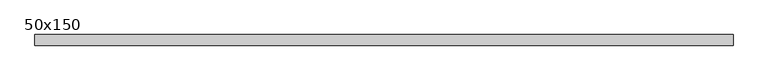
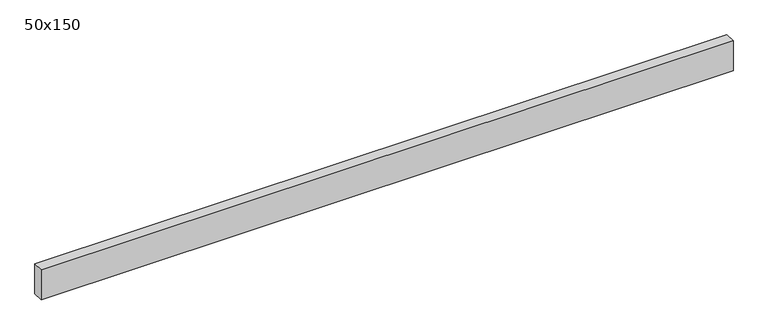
"""IFC4 building model written with IfcOpenShell, lengths in millimetres: beam geometry, Graded Timber : 50x150."""

import ifcopenshell
import ifcopenshell.guid

model = None  # the IFC model being written
_history = None  # IfcOwnerHistory: only IFC2X3 demands one
_inside = {}  # id of a spatial element -> (the spatial element, [elements in it])
_under = {}  # id of a project, library or spatial element -> (it, [spatial elements below it])
_declared = {}  # id of a project -> (the project, [libraries it declares])
_typed = {}  # id of a type object -> (the type object, [elements of that type])
_made_of = {}  # id of a material, layer set ... -> (it, [elements and type objects made of it])


def new_model(schema):
    """Start an empty IFC model of exactly this schema.

    Asked for "IFC4X3", IfcOpenShell would pick the latest addendum, in which some entities
    have other attributes; the version numbers below select the first issue.
    IFC2X3 requires an IfcOwnerHistory on every rooted entity: one is made here for all.
    """
    global model, _history
    if schema == "IFC4X3":
        model = ifcopenshell.file(schema_version=(4, 3, 0, 0))
    else:
        model = ifcopenshell.file(schema=schema)
    _inside.clear()
    _under.clear()
    _declared.clear()
    _typed.clear()
    _made_of.clear()
    _history = None
    if model.schema == "IFC2X3":
        org = make("IfcOrganization", Name="unknown")
        user = make(
            "IfcPersonAndOrganization",
            ThePerson=make("IfcPerson", FamilyName="unknown"),
            TheOrganization=org,
        )
        app = make(
            "IfcApplication",
            ApplicationDeveloper=org,
            Version="unknown",
            ApplicationFullName="unknown",
            ApplicationIdentifier="unknown",
        )
        _history = make(
            "IfcOwnerHistory",
            OwningUser=user,
            OwningApplication=app,
            ChangeAction="ADDED",
            CreationDate=0,
        )
    return model


def make(cls, **values):
    """One entity of the class cls with the attributes given. An attribute that is None is left unset."""
    return model.create_entity(
        cls, **{name: value for name, value in values.items() if value is not None}
    )


def rooted(cls, **values):
    """An entity with a GlobalId (a new one), such as an element, a storey or a relation."""
    return make(cls, GlobalId=ifcopenshell.guid.new(), OwnerHistory=_history, **values)


def si_unit(unit_type, name, prefix=None):
    """IfcSIUnit, for example si_unit("LENGTHUNIT", "METRE", prefix="MILLI")."""
    return make("IfcSIUnit", UnitType=unit_type, Prefix=prefix, Name=name)


def assignment(units):
    """IfcUnitAssignment: the units of a project."""
    return None if units is None else make("IfcUnitAssignment", Units=units)


def point(xyz):
    """IfcCartesianPoint."""
    return None if xyz is None else make("IfcCartesianPoint", Coordinates=xyz)


def direction(xyz):
    """IfcDirection."""
    return None if xyz is None else make("IfcDirection", DirectionRatios=xyz)


def frame(location, z_axis=None, x_axis=None):
    """IfcAxis2Placement3D, a coordinate frame: its origin and axes. An axis left out is left unset."""
    return make(
        "IfcAxis2Placement3D",
        Location=point(location),
        Axis=direction(z_axis),
        RefDirection=direction(x_axis),
    )


def origin():
    """The frame at (0, 0, 0) with its axes left unset."""
    return frame((0.0, 0.0, 0.0))


def place(relative_to, where):
    """IfcLocalPlacement: puts the frame where relative to a parent placement (None: the world)."""
    return make(
        "IfcLocalPlacement", PlacementRelTo=relative_to, RelativePlacement=where
    )


def context(
    kind, dimensions, precision=None, world=None, true_north=None, identifier=None
):
    """IfcGeometricRepresentationContext, for example the 3D "Model" context."""
    return make(
        "IfcGeometricRepresentationContext",
        ContextIdentifier=identifier,
        ContextType=kind,
        CoordinateSpaceDimension=dimensions,
        Precision=precision,
        WorldCoordinateSystem=world,
        TrueNorth=true_north,
    )


def project(units=None, contexts=None):
    """IfcProject with its units and contexts."""
    return rooted(
        "IfcProject",
        Name="project",
        RepresentationContexts=contexts,
        UnitsInContext=assignment(units),
    )


def spatial(cls, under=None, at=None, **own):
    """A site, building, storey or space (cls), placed at a placement, below another one or the project."""
    s = rooted(cls, ObjectPlacement=at, **own)
    if under is not None:
        _under.setdefault(under.id(), (under, []))[1].append(s)
    return s


def polyline(points):
    """IfcPolyline through the points."""
    return make("IfcPolyline", Points=[point(p) for p in points])


def outline(outer, holes=None, kind="AREA"):
    """IfcArbitraryClosedProfileDef: a profile drawn as a closed curve; with holes, ...WithVoids."""
    if holes is None:
        return make("IfcArbitraryClosedProfileDef", ProfileType=kind, OuterCurve=outer)
    return make(
        "IfcArbitraryProfileDefWithVoids",
        ProfileType=kind,
        OuterCurve=outer,
        InnerCurves=holes,
    )


def extrude(swept, where, along, depth):
    """IfcExtrudedAreaSolid: the profile swept, set in the frame where, extruded along a direction by depth."""
    return make(
        "IfcExtrudedAreaSolid",
        SweptArea=swept,
        Position=where,
        ExtrudedDirection=direction(along),
        Depth=depth,
    )


def shape(context_of_items, identifier, shape_type, items):
    """IfcShapeRepresentation: the items that make up one representation, for example the "Body"."""
    return make(
        "IfcShapeRepresentation",
        ContextOfItems=context_of_items,
        RepresentationIdentifier=identifier,
        RepresentationType=shape_type,
        Items=items,
    )


def source(mapping_origin, context_of_items, identifier, shape_type, items):
    """IfcRepresentationMap: a shape defined once, which mapped items show again and again."""
    return make(
        "IfcRepresentationMap",
        MappingOrigin=mapping_origin,
        MappedRepresentation=shape(context_of_items, identifier, shape_type, items),
    )


def transform(
    local_origin,
    x_axis=None,
    y_axis=None,
    z_axis=None,
    scale=None,
    scale2=None,
    scale3=None,
    uniform=True,
):
    """IfcCartesianTransformationOperator3D, or its non-uniform kind. x_axis, y_axis, z_axis: its Axis1, 2, 3."""
    if uniform:
        return make(
            "IfcCartesianTransformationOperator3D",
            Axis1=direction(x_axis),
            Axis2=direction(y_axis),
            LocalOrigin=point(local_origin),
            Scale=scale,
            Axis3=direction(z_axis),
        )
    return make(
        "IfcCartesianTransformationOperator3DnonUniform",
        Axis1=direction(x_axis),
        Axis2=direction(y_axis),
        LocalOrigin=point(local_origin),
        Scale=scale,
        Axis3=direction(z_axis),
        Scale2=scale2,
        Scale3=scale3,
    )


def mapped(mapping_source, mapping_target):
    """IfcMappedItem: shows the shape of a source again, moved by a transform."""
    return make(
        "IfcMappedItem", MappingSource=mapping_source, MappingTarget=mapping_target
    )


def made_of(thing, what):
    """Note that an element or type object is made of a material, layer set ...; save() writes the relation."""
    if what is not None:
        _made_of.setdefault(what.id(), (what, []))[1].append(thing)
    return thing


def element(
    cls,
    number,
    at=None,
    inside=None,
    cuts=None,
    type_object=None,
    material=None,
    context=None,
    identifier="Body",
    shape_type=None,
    held_by="IfcProductDefinitionShape",
    body=None,
    shapes=None,
    **own,
):
    """One element of the class cls, such as IfcWall. Its Tag is "e" and its number.

    at: its placement. inside: the storey or other place that contains it. cuts: it is an
    opening in that element (IfcRelVoidsElement). A single representation is given by context,
    identifier, shape_type and body (its items); several are given by shapes. held_by: the class
    of the entity that holds the representations. save() writes the other relations.
    """
    e = rooted(cls, Tag="e%d" % number, ObjectPlacement=at, **own)
    if body is not None:
        shapes = [shape(context, identifier, shape_type, body)]
    if shapes is not None:
        e.Representation = make(held_by, Representations=shapes)
    if inside is not None:
        _inside.setdefault(inside.id(), (inside, []))[1].append(e)
    if cuts is not None:
        rooted(
            "IfcRelVoidsElement", RelatingBuildingElement=cuts, RelatedOpeningElement=e
        )
    if type_object is not None:
        _typed.setdefault(type_object.id(), (type_object, []))[1].append(e)
    return made_of(e, material)


def aggregate(whole, parts):
    """IfcRelAggregates: a whole, such as a stair, and the parts it consists of."""
    return rooted("IfcRelAggregates", RelatingObject=whole, RelatedObjects=parts)


def save(model, path):
    """Write the relations noted so far, then the file.

    IfcRelAggregates (storeys below a building ...), IfcRelContainedInSpatialStructure (elements
    in a storey), IfcRelDefinesByType, IfcRelAssociatesMaterial and IfcRelDeclares: one each for
    every whole, place, type object, material and project.
    """
    for whole, parts in _under.values():
        aggregate(whole, parts)
    for where, things in _inside.values():
        rooted(
            "IfcRelContainedInSpatialStructure",
            RelatedElements=things,
            RelatingStructure=where,
        )
    for kind, things in _typed.values():
        rooted("IfcRelDefinesByType", RelatedObjects=things, RelatingType=kind)
    for what, things in _made_of.values():
        rooted("IfcRelAssociatesMaterial", RelatedObjects=things, RelatingMaterial=what)
    for by, libraries in _declared.values():
        rooted("IfcRelDeclares", RelatingContext=by, RelatedDefinitions=libraries)
    model.write(path)


def beam_50x150_329b2feb(model_context):
    return source(origin(), model_context, "Body", "SweptSolid", [
        extrude(outline(polyline([(1635.5, 25.0), (1635.5, -25.0), (-1635.5, -25.0), (-1635.5, 25.0), (1635.5, 25.0)])), frame((0.0, 0.0, -75.0), z_axis=(0.0, 0.0, 1.0), x_axis=(1.0, 0.0, 0.0)), (0.0, 0.0, 1.0), 150.0),
    ])


if __name__ == "__main__":
    model = new_model("IFC4")
    model_context = context("Model", 3, world=origin())
    ifc_project = project(units=[si_unit("LENGTHUNIT", "METRE", prefix="MILLI")], contexts=[model_context])
    site = spatial("IfcSite", under=ifc_project)
    building = spatial("IfcBuilding", under=site)
    placement = place(None, origin())
    beam_50x150_shape = beam_50x150_329b2feb(model_context)
    element("IfcBeam", 1, ObjectType="Graded Timber : 50x150", at=placement, inside=building, context=model_context, shape_type="MappedRepresentation", body=[
        mapped(beam_50x150_shape, transform((0.0, 0.0, 0.0), x_axis=(1.0, 0.0, 0.0), y_axis=(0.0, 1.0, 0.0), z_axis=(0.0, 0.0, 1.0))),
    ])
    save(model, "model.ifc")
